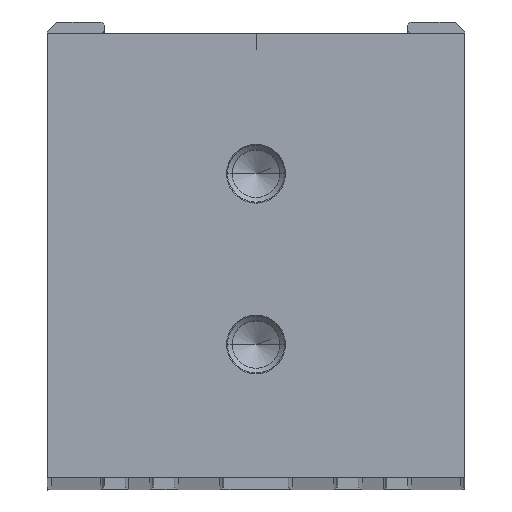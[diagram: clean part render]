
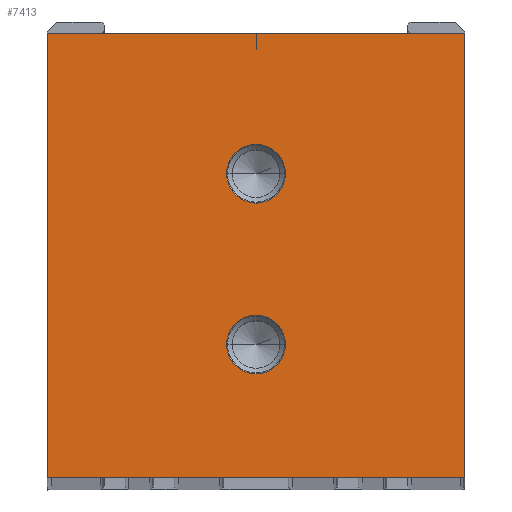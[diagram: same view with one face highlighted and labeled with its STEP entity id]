
A CAD part, top view. The second image highlights one B-rep face of the part: STEP entity #7413.
In plain terms, the highlighted planar face has unit normal (0, 0, 1).
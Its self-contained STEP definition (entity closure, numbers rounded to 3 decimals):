
#2553=DIRECTION('',(-1.,0.,0.));
#2554=VECTOR('',#2553,22.);
#2555=CARTESIAN_POINT('',(11.,11.402,186.5));
#2556=LINE('',#2555,#2554);
#2557=DIRECTION('',(0.,1.,0.));
#2558=VECTOR('',#2557,23.402);
#2559=CARTESIAN_POINT('',(11.,-11.999,186.5));
#2560=LINE('',#2559,#2558);
#2561=DIRECTION('',(1.,0.,0.));
#2562=VECTOR('',#2561,22.);
#2563=CARTESIAN_POINT('',(-11.,-12.007,186.5));
#2564=LINE('',#2563,#2562);
#2565=DIRECTION('',(0.,-1.,0.));
#2566=VECTOR('',#2565,23.409);
#2567=CARTESIAN_POINT('',(-11.,11.402,186.5));
#2568=LINE('',#2567,#2566);
#2569=CARTESIAN_POINT('',(0.,-4.996,186.5));
#2570=DIRECTION('',(0.,0.,-1.));
#2571=DIRECTION('',(-1.,0.,0.));
#2572=AXIS2_PLACEMENT_3D('',#2569,#2570,#2571);
#2574=CARTESIAN_POINT('',(0.,-4.996,
186.5));
#2575=DIRECTION('',(0.,0.,-1.));
#2576=DIRECTION('',(1.,0.,0.));
#2577=AXIS2_PLACEMENT_3D('',#2574,#2575,#2576);
#2579=CARTESIAN_POINT('',(0.,4.004,
186.5));
#2580=DIRECTION('',(0.,0.,-1.));
#2581=DIRECTION('',(-1.,0.,0.));
#2582=AXIS2_PLACEMENT_3D('',#2579,#2580,#2581);
#2584=CARTESIAN_POINT('',(0.,4.004,
186.5));
#2585=DIRECTION('',(0.,0.,-1.));
#2586=DIRECTION('',(1.,0.,0.));
#2587=AXIS2_PLACEMENT_3D('',#2584,#2585,#2586);
#2913=CARTESIAN_POINT('',(-11.,11.402,186.5));
#2914=CARTESIAN_POINT('',(-11.,-12.007,186.5));
#2915=VERTEX_POINT('',#2913);
#2916=VERTEX_POINT('',#2914);
#2917=CARTESIAN_POINT('',(11.,-11.999,186.5));
#2918=VERTEX_POINT('',#2917);
#2919=CARTESIAN_POINT('',(11.,11.402,186.5));
#2920=VERTEX_POINT('',#2919);
#3737=CARTESIAN_POINT('',(-1.55,-4.996,
186.5));
#3738=CARTESIAN_POINT('',(1.55,-4.996,186.5));
#3739=VERTEX_POINT('',#3737);
#3740=VERTEX_POINT('',#3738);
#3745=CARTESIAN_POINT('',(-1.55,4.004,186.5));
#3746=CARTESIAN_POINT('',(1.55,4.004,186.5));
#3747=VERTEX_POINT('',#3745);
#3748=VERTEX_POINT('',#3746);
#7390=CARTESIAN_POINT('',(0.,0.,186.5));
#7391=DIRECTION('',(0.,0.,1.));
#7392=DIRECTION('',(1.,0.,0.));
#7393=AXIS2_PLACEMENT_3D('',#7390,#7391,#7392);
#7394=PLANE('',#7393);
#7395=ORIENTED_EDGE('',*,*,#3822,.F.);
#7396=ORIENTED_EDGE('',*,*,#3917,.F.);
#7397=ORIENTED_EDGE('',*,*,#4814,.F.);
#7398=ORIENTED_EDGE('',*,*,#4070,.F.);
#7399=EDGE_LOOP('',(#7395,#7396,#7397,#7398));
#7400=FACE_OUTER_BOUND('',#7399,.F.);
#7402=ORIENTED_EDGE('',*,*,#7401,.F.);
#7404=ORIENTED_EDGE('',*,*,#7403,.F.);
#7405=EDGE_LOOP('',(#7402,#7404));
#7406=FACE_BOUND('',#7405,.F.);
#7408=ORIENTED_EDGE('',*,*,#7407,.F.);
#7410=ORIENTED_EDGE('',*,*,#7409,.F.);
#7411=EDGE_LOOP('',(#7408,#7410));
#7412=FACE_BOUND('',#7411,.F.);
#2573=CIRCLE('',#2572,1.55);
#2578=CIRCLE('',#2577,1.55);
#2583=CIRCLE('',#2582,1.55);
#2588=CIRCLE('',#2587,1.55);
#3822=EDGE_CURVE('',#2920,#2915,#2556,.T.);
#3917=EDGE_CURVE('',#2918,#2920,#2560,.T.);
#4070=EDGE_CURVE('',#2915,#2916,#2568,.T.);
#4814=EDGE_CURVE('',#2916,#2918,#2564,.T.);
#7401=EDGE_CURVE('',#3739,#3740,#2573,.T.);
#7403=EDGE_CURVE('',#3740,#3739,#2578,.T.);
#7407=EDGE_CURVE('',#3747,#3748,#2583,.T.);
#7409=EDGE_CURVE('',#3748,#3747,#2588,.T.);
#7413=ADVANCED_FACE('',(#7400,#7406,#7412),#7394,.T.);
